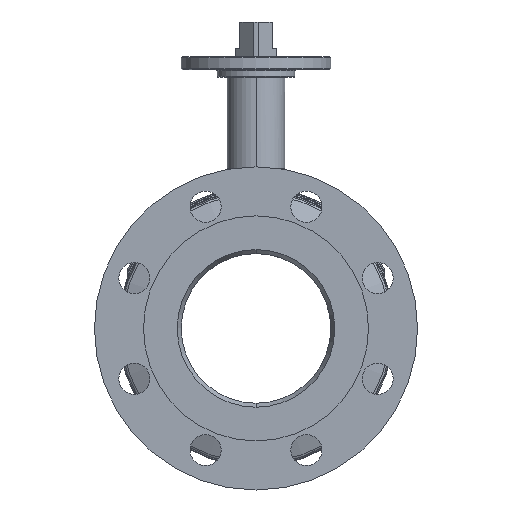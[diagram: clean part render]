
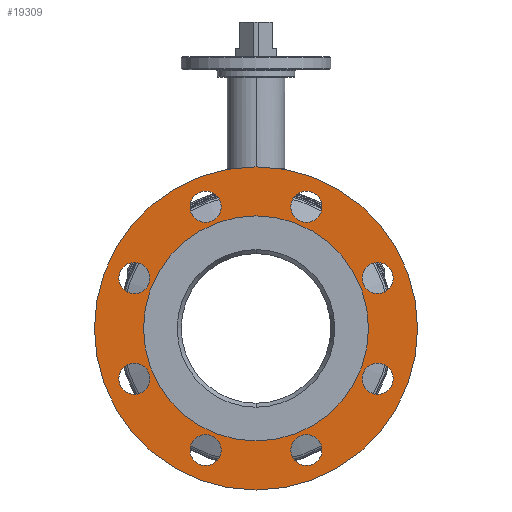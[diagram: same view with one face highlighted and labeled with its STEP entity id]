
A CAD part, left-side view. The second image highlights one B-rep face of the part: STEP entity #19309.
In plain terms, the highlighted planar face has unit normal (-1, 0, 0).
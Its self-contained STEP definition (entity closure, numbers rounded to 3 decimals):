
#6423=CARTESIAN_POINT('',(-160.5,0.,0.));
#6424=DIRECTION('',(1.,0.,0.));
#6425=DIRECTION('',(0.,0.,-1.));
#6426=AXIS2_PLACEMENT_3D('',#6423,#6424,#6425);
#6432=CARTESIAN_POINT('',(-160.5,0.,0.));
#6433=DIRECTION('',(-1.,0.,0.));
#6434=DIRECTION('',(0.,0.,-1.));
#6435=AXIS2_PLACEMENT_3D('',#6432,#6433,#6434);
#6441=CARTESIAN_POINT('',(-160.5,0.,0.));
#6442=DIRECTION('',(-1.,0.,0.));
#6443=DIRECTION('',(0.,0.,-1.));
#6444=AXIS2_PLACEMENT_3D('',#6441,#6442,#6443);
#6446=CARTESIAN_POINT('',(-160.5,0.,0.));
#6447=DIRECTION('',(-1.,0.,0.));
#6448=DIRECTION('',(0.,0.,1.));
#6449=AXIS2_PLACEMENT_3D('',#6446,#6447,#6448);
#6451=CARTESIAN_POINT('',(-160.5,-42.095,101.627));
#6452=DIRECTION('',(-1.,0.,0.));
#6453=DIRECTION('',(0.,1.,0.));
#6454=AXIS2_PLACEMENT_3D('',#6451,#6452,#6453);
#6456=CARTESIAN_POINT('',(-160.5,-42.095,101.627));
#6457=DIRECTION('',(-1.,0.,0.));
#6458=DIRECTION('',(0.,-1.,0.));
#6459=AXIS2_PLACEMENT_3D('',#6456,#6457,#6458);
#6461=CARTESIAN_POINT('',(-160.5,-101.627,42.095));
#6462=DIRECTION('',(-1.,0.,0.));
#6463=DIRECTION('',(0.,1.,0.));
#6464=AXIS2_PLACEMENT_3D('',#6461,#6462,#6463);
#6466=CARTESIAN_POINT('',(-160.5,-101.627,42.095));
#6467=DIRECTION('',(-1.,0.,0.));
#6468=DIRECTION('',(0.,-1.,0.));
#6469=AXIS2_PLACEMENT_3D('',#6466,#6467,#6468);
#6471=CARTESIAN_POINT('',(-160.5,-101.627,-42.095));
#6472=DIRECTION('',(-1.,0.,0.));
#6473=DIRECTION('',(0.,1.,0.));
#6474=AXIS2_PLACEMENT_3D('',#6471,#6472,#6473);
#6476=CARTESIAN_POINT('',(-160.5,-101.627,-42.095));
#6477=DIRECTION('',(-1.,0.,0.));
#6478=DIRECTION('',(0.,-1.,0.));
#6479=AXIS2_PLACEMENT_3D('',#6476,#6477,#6478);
#6481=CARTESIAN_POINT('',(-160.5,-42.095,-101.627));
#6482=DIRECTION('',(-1.,0.,0.));
#6483=DIRECTION('',(0.,1.,0.));
#6484=AXIS2_PLACEMENT_3D('',#6481,#6482,#6483);
#6486=CARTESIAN_POINT('',(-160.5,-42.095,-101.627));
#6487=DIRECTION('',(-1.,0.,0.));
#6488=DIRECTION('',(0.,-1.,0.));
#6489=AXIS2_PLACEMENT_3D('',#6486,#6487,#6488);
#6491=CARTESIAN_POINT('',(-160.5,42.095,-101.627));
#6492=DIRECTION('',(-1.,0.,0.));
#6493=DIRECTION('',(0.,1.,0.));
#6494=AXIS2_PLACEMENT_3D('',#6491,#6492,#6493);
#6496=CARTESIAN_POINT('',(-160.5,42.095,-101.627));
#6497=DIRECTION('',(-1.,0.,0.));
#6498=DIRECTION('',(0.,-1.,0.));
#6499=AXIS2_PLACEMENT_3D('',#6496,#6497,#6498);
#6501=CARTESIAN_POINT('',(-160.5,101.627,-42.095));
#6502=DIRECTION('',(-1.,0.,0.));
#6503=DIRECTION('',(0.,1.,0.));
#6504=AXIS2_PLACEMENT_3D('',#6501,#6502,#6503);
#6506=CARTESIAN_POINT('',(-160.5,101.627,-42.095));
#6507=DIRECTION('',(-1.,0.,0.));
#6508=DIRECTION('',(0.,-1.,0.));
#6509=AXIS2_PLACEMENT_3D('',#6506,#6507,#6508);
#6511=CARTESIAN_POINT('',(-160.5,101.627,42.095));
#6512=DIRECTION('',(-1.,0.,0.));
#6513=DIRECTION('',(0.,1.,0.));
#6514=AXIS2_PLACEMENT_3D('',#6511,#6512,#6513);
#6516=CARTESIAN_POINT('',(-160.5,101.627,42.095));
#6517=DIRECTION('',(-1.,0.,0.));
#6518=DIRECTION('',(0.,-1.,0.));
#6519=AXIS2_PLACEMENT_3D('',#6516,#6517,#6518);
#6521=CARTESIAN_POINT('',(-160.5,42.095,101.627));
#6522=DIRECTION('',(-1.,0.,0.));
#6523=DIRECTION('',(0.,1.,0.));
#6524=AXIS2_PLACEMENT_3D('',#6521,#6522,#6523);
#6526=CARTESIAN_POINT('',(-160.5,42.095,101.627));
#6527=DIRECTION('',(-1.,0.,0.));
#6528=DIRECTION('',(0.,-1.,0.));
#6529=AXIS2_PLACEMENT_3D('',#6526,#6527,#6528);
#8693=CARTESIAN_POINT('',(-160.5,0.,-94.));
#8694=CARTESIAN_POINT('',(-160.5,0.,94.));
#8695=VERTEX_POINT('',#8693);
#8696=VERTEX_POINT('',#8694);
#8697=CARTESIAN_POINT('',(-160.5,0.,-135.));
#8698=CARTESIAN_POINT('',(-160.5,0.,135.));
#8699=VERTEX_POINT('',#8697);
#8700=VERTEX_POINT('',#8698);
#8705=CARTESIAN_POINT('',(-160.5,-29.095,101.627));
#8706=CARTESIAN_POINT('',(-160.5,-55.095,101.627));
#8707=VERTEX_POINT('',#8705);
#8708=VERTEX_POINT('',#8706);
#8709=CARTESIAN_POINT('',(-160.5,-88.627,42.095));
#8710=CARTESIAN_POINT('',(-160.5,-114.627,42.095));
#8711=VERTEX_POINT('',#8709);
#8712=VERTEX_POINT('',#8710);
#8713=CARTESIAN_POINT('',(-160.5,-88.627,-42.095));
#8714=CARTESIAN_POINT('',(-160.5,-114.627,-42.095));
#8715=VERTEX_POINT('',#8713);
#8716=VERTEX_POINT('',#8714);
#8717=CARTESIAN_POINT('',(-160.5,-29.095,-101.627));
#8718=CARTESIAN_POINT('',(-160.5,-55.095,-101.627));
#8719=VERTEX_POINT('',#8717);
#8720=VERTEX_POINT('',#8718);
#8721=CARTESIAN_POINT('',(-160.5,55.095,-101.627));
#8722=CARTESIAN_POINT('',(-160.5,29.095,-101.627));
#8723=VERTEX_POINT('',#8721);
#8724=VERTEX_POINT('',#8722);
#8725=CARTESIAN_POINT('',(-160.5,114.627,-42.095));
#8726=CARTESIAN_POINT('',(-160.5,88.627,-42.095));
#8727=VERTEX_POINT('',#8725);
#8728=VERTEX_POINT('',#8726);
#8729=CARTESIAN_POINT('',(-160.5,114.627,42.095));
#8730=CARTESIAN_POINT('',(-160.5,88.627,42.095));
#8731=VERTEX_POINT('',#8729);
#8732=VERTEX_POINT('',#8730);
#8733=CARTESIAN_POINT('',(-160.5,55.095,101.627));
#8734=CARTESIAN_POINT('',(-160.5,29.095,101.627));
#8735=VERTEX_POINT('',#8733);
#8736=VERTEX_POINT('',#8734);
#19246=CARTESIAN_POINT('',(-160.5,0.,0.));
#19247=DIRECTION('',(1.,0.,0.));
#19248=DIRECTION('',(0.,0.,-1.));
#19249=AXIS2_PLACEMENT_3D('',#19246,#19247,#19248);
#19250=PLANE('',#19249);
#19252=ORIENTED_EDGE('',*,*,#19251,.F.);
#19254=ORIENTED_EDGE('',*,*,#19253,.F.);
#19255=EDGE_LOOP('',(#19252,#19254));
#19256=FACE_OUTER_BOUND('',#19255,.F.);
#19257=ORIENTED_EDGE('',*,*,#19240,.T.);
#19258=ORIENTED_EDGE('',*,*,#19226,.F.);
#19259=EDGE_LOOP('',(#19257,#19258));
#19260=FACE_BOUND('',#19259,.F.);
#19262=ORIENTED_EDGE('',*,*,#19261,.T.);
#19264=ORIENTED_EDGE('',*,*,#19263,.T.);
#19265=EDGE_LOOP('',(#19262,#19264));
#19266=FACE_BOUND('',#19265,.F.);
#19268=ORIENTED_EDGE('',*,*,#19267,.T.);
#19270=ORIENTED_EDGE('',*,*,#19269,.T.);
#19271=EDGE_LOOP('',(#19268,#19270));
#19272=FACE_BOUND('',#19271,.F.);
#19274=ORIENTED_EDGE('',*,*,#19273,.T.);
#19276=ORIENTED_EDGE('',*,*,#19275,.T.);
#19277=EDGE_LOOP('',(#19274,#19276));
#19278=FACE_BOUND('',#19277,.F.);
#19280=ORIENTED_EDGE('',*,*,#19279,.T.);
#19282=ORIENTED_EDGE('',*,*,#19281,.T.);
#19283=EDGE_LOOP('',(#19280,#19282));
#19284=FACE_BOUND('',#19283,.F.);
#19286=ORIENTED_EDGE('',*,*,#19285,.T.);
#19288=ORIENTED_EDGE('',*,*,#19287,.T.);
#19289=EDGE_LOOP('',(#19286,#19288));
#19290=FACE_BOUND('',#19289,.F.);
#19292=ORIENTED_EDGE('',*,*,#19291,.T.);
#19294=ORIENTED_EDGE('',*,*,#19293,.T.);
#19295=EDGE_LOOP('',(#19292,#19294));
#19296=FACE_BOUND('',#19295,.F.);
#19298=ORIENTED_EDGE('',*,*,#19297,.T.);
#19300=ORIENTED_EDGE('',*,*,#19299,.T.);
#19301=EDGE_LOOP('',(#19298,#19300));
#19302=FACE_BOUND('',#19301,.F.);
#19304=ORIENTED_EDGE('',*,*,#19303,.T.);
#19306=ORIENTED_EDGE('',*,*,#19305,.T.);
#19307=EDGE_LOOP('',(#19304,#19306));
#19308=FACE_BOUND('',#19307,.F.);
#19309=ADVANCED_FACE('',(#19256,#19260,#19266,#19272,#19278,#19284,#19290,
#19296,#19302,#19308),#19250,.F.);
#6427=CIRCLE('',#6426,94.);
#6436=CIRCLE('',#6435,94.);
#6445=CIRCLE('',#6444,135.);
#6450=CIRCLE('',#6449,135.);
#6455=CIRCLE('',#6454,13.);
#6460=CIRCLE('',#6459,13.);
#6465=CIRCLE('',#6464,13.);
#6470=CIRCLE('',#6469,13.);
#6475=CIRCLE('',#6474,13.);
#6480=CIRCLE('',#6479,13.);
#6485=CIRCLE('',#6484,13.);
#6490=CIRCLE('',#6489,13.);
#6495=CIRCLE('',#6494,13.);
#6500=CIRCLE('',#6499,13.);
#6505=CIRCLE('',#6504,13.);
#6510=CIRCLE('',#6509,13.);
#6515=CIRCLE('',#6514,13.);
#6520=CIRCLE('',#6519,13.);
#6525=CIRCLE('',#6524,13.);
#6530=CIRCLE('',#6529,13.);
#19226=EDGE_CURVE('',#8695,#8696,#6427,.T.);
#19240=EDGE_CURVE('',#8695,#8696,#6436,.T.);
#19251=EDGE_CURVE('',#8699,#8700,#6445,.T.);
#19253=EDGE_CURVE('',#8700,#8699,#6450,.T.);
#19261=EDGE_CURVE('',#8707,#8708,#6455,.T.);
#19263=EDGE_CURVE('',#8708,#8707,#6460,.T.);
#19267=EDGE_CURVE('',#8711,#8712,#6465,.T.);
#19269=EDGE_CURVE('',#8712,#8711,#6470,.T.);
#19273=EDGE_CURVE('',#8715,#8716,#6475,.T.);
#19275=EDGE_CURVE('',#8716,#8715,#6480,.T.);
#19279=EDGE_CURVE('',#8719,#8720,#6485,.T.);
#19281=EDGE_CURVE('',#8720,#8719,#6490,.T.);
#19285=EDGE_CURVE('',#8723,#8724,#6495,.T.);
#19287=EDGE_CURVE('',#8724,#8723,#6500,.T.);
#19291=EDGE_CURVE('',#8727,#8728,#6505,.T.);
#19293=EDGE_CURVE('',#8728,#8727,#6510,.T.);
#19297=EDGE_CURVE('',#8731,#8732,#6515,.T.);
#19299=EDGE_CURVE('',#8732,#8731,#6520,.T.);
#19303=EDGE_CURVE('',#8735,#8736,#6525,.T.);
#19305=EDGE_CURVE('',#8736,#8735,#6530,.T.);
